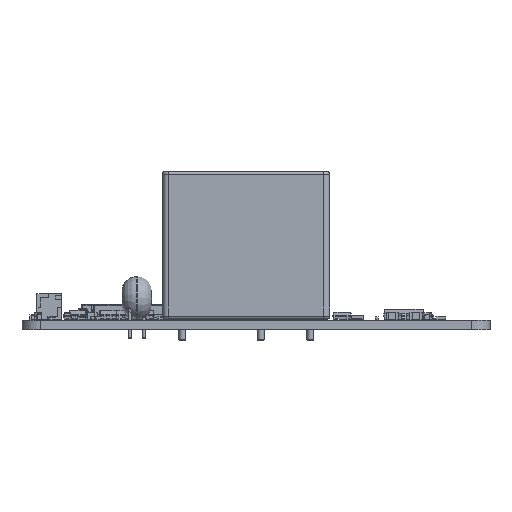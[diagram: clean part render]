
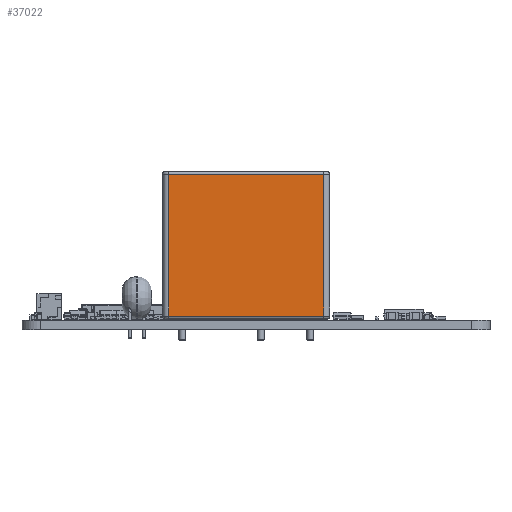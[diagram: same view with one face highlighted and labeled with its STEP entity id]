
A CAD part, left-side view. The second image highlights one B-rep face of the part: STEP entity #37022.
In plain terms, the highlighted planar face has unit normal (-1, 0, 0).
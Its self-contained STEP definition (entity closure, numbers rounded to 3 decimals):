
#36700 = VERTEX_POINT('',#36701);
#36701 = CARTESIAN_POINT('',(-3.4,2.2,0.6));
#36752 = VERTEX_POINT('',#36753);
#36753 = CARTESIAN_POINT('',(-3.4,-23.,0.6));
#36760 = EDGE_CURVE('',#36752,#36700,#36761,.T.);
#36761 = LINE('',#36762,#36763);
#36762 = CARTESIAN_POINT('',(-3.4,-23.,0.6));
#36763 = VECTOR('',#36764,1.);
#36764 = DIRECTION('',(0.,1.,0.));
#36977 = VERTEX_POINT('',#36978);
#36978 = CARTESIAN_POINT('',(-3.4,2.2,23.6));
#36987 = EDGE_CURVE('',#36700,#36977,#36988,.T.);
#36988 = LINE('',#36989,#36990);
#36989 = CARTESIAN_POINT('',(-3.4,2.2,0.1));
#36990 = VECTOR('',#36991,1.);
#36991 = DIRECTION('',(0.,0.,1.));
#37022 = ADVANCED_FACE('',(#37023),#37041,.T.);
#37023 = FACE_BOUND('',#37024,.T.);
#37024 = EDGE_LOOP('',(#37025,#37026,#37027,#37035));
#37025 = ORIENTED_EDGE('',*,*,#36987,.F.);
#37026 = ORIENTED_EDGE('',*,*,#36760,.F.);
#37027 = ORIENTED_EDGE('',*,*,#37028,.T.);
#37028 = EDGE_CURVE('',#36752,#37029,#37031,.T.);
#37029 = VERTEX_POINT('',#37030);
#37030 = CARTESIAN_POINT('',(-3.4,-23.,23.6));
#37031 = LINE('',#37032,#37033);
#37032 = CARTESIAN_POINT('',(-3.4,-23.,0.1));
#37033 = VECTOR('',#37034,1.);
#37034 = DIRECTION('',(0.,0.,1.));
#37035 = ORIENTED_EDGE('',*,*,#37036,.T.);
#37036 = EDGE_CURVE('',#37029,#36977,#37037,.T.);
#37037 = LINE('',#37038,#37039);
#37038 = CARTESIAN_POINT('',(-3.4,-23.,23.6));
#37039 = VECTOR('',#37040,1.);
#37040 = DIRECTION('',(0.,1.,0.));
#37041 = PLANE('',#37042);
#37042 = AXIS2_PLACEMENT_3D('',#37043,#37044,#37045);
#37043 = CARTESIAN_POINT('',(-3.4,-24.,0.1));
#37044 = DIRECTION('',(-1.,0.,0.));
#37045 = DIRECTION('',(0.,1.,0.));
